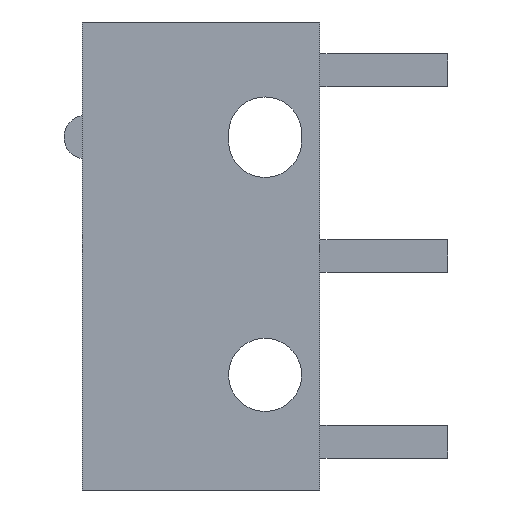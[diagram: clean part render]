
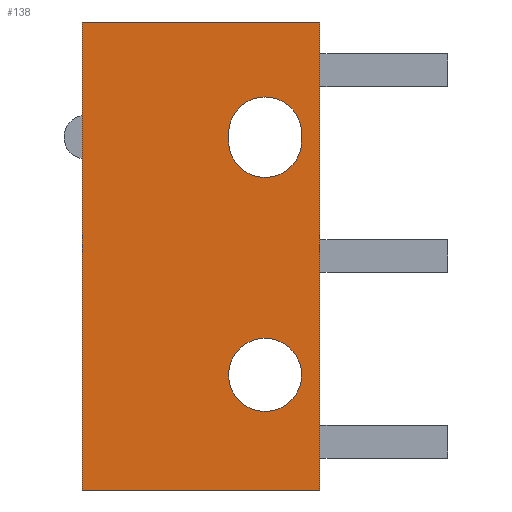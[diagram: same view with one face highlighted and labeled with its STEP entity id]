
A CAD part, left-side view. The second image highlights one B-rep face of the part: STEP entity #138.
In plain terms, the highlighted planar face has unit normal (-1, 0, 0).
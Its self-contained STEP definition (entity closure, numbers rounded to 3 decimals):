
#81 = ORIENTED_EDGE ( 'NONE', *, *, #85, .F. ) ;
#85 = EDGE_CURVE ( 'NONE', #87, #104, #474, .T. ) ;
#87 = VERTEX_POINT ( 'NONE', #505 ) ;
#88 = VERTEX_POINT ( 'NONE', #473 ) ;
#91 = VERTEX_POINT ( 'NONE', #497 ) ;
#94 = ORIENTED_EDGE ( 'NONE', *, *, #1201, .F. ) ;
#96 = VERTEX_POINT ( 'NONE', #494 ) ;
#103 = EDGE_LOOP ( 'NONE', ( #105, #81, #107, #113, #140 ) ) ;
#104 = VERTEX_POINT ( 'NONE', #549 ) ;
#105 = ORIENTED_EDGE ( 'NONE', *, *, #106, .F. ) ;
#106 = EDGE_CURVE ( 'NONE', #104, #96, #548, .T. ) ;
#107 = ORIENTED_EDGE ( 'NONE', *, *, #154, .F. ) ;
#108 = ORIENTED_EDGE ( 'NONE', *, *, #110, .T. ) ;
#109 = ORIENTED_EDGE ( 'NONE', *, *, #111, .F. ) ;
#110 = EDGE_CURVE ( 'NONE', #112, #1192, #551, .T. ) ;
#111 = EDGE_CURVE ( 'NONE', #112, #1203, #532, .T. ) ;
#112 = VERTEX_POINT ( 'NONE', #539 ) ;
#113 = ORIENTED_EDGE ( 'NONE', *, *, #142, .F. ) ;
#135 = EDGE_LOOP ( 'NONE', ( #94, #1209 ) ) ;
#136 = VERTEX_POINT ( 'NONE', #604 ) ;
#138 = ADVANCED_FACE ( 'NONE', ( #602, #555, #605 ), #558, .F. ) ;
#139 = EDGE_CURVE ( 'NONE', #88, #136, #598, .T. ) ;
#140 = ORIENTED_EDGE ( 'NONE', *, *, #161, .F. ) ;
#142 = EDGE_CURVE ( 'NONE', #91, #155, #597, .T. ) ;
#154 = EDGE_CURVE ( 'NONE', #155, #87, #628, .T. ) ;
#155 = VERTEX_POINT ( 'NONE', #626 ) ;
#161 = EDGE_CURVE ( 'NONE', #96, #91, #635, .T. ) ;
#473 = CARTESIAN_POINT ( 'NONE',  ( -2.9, 1.5, -4.25 ) ) ;
#474 = LINE ( 'NONE', #509, #504 ) ;
#494 = CARTESIAN_POINT ( 'NONE',  ( -2.9, 1.5, 4.35 ) ) ;
#497 = CARTESIAN_POINT ( 'NONE',  ( -2.9, 2.5, 3.35 ) ) ;
#503 = DIRECTION ( 'NONE',  ( 0., 0., 1. ) ) ;
#504 = VECTOR ( 'NONE', #503, 1000. ) ;
#505 = CARTESIAN_POINT ( 'NONE',  ( -2.9, 0.5, 3.15 ) ) ;
#509 = CARTESIAN_POINT ( 'NONE',  ( -2.9, 0.5, 3.35 ) ) ;
#529 = DIRECTION ( 'NONE',  ( 0., 0., 1. ) ) ;
#530 = VECTOR ( 'NONE', #529, 1000. ) ;
#531 = CARTESIAN_POINT ( 'NONE',  ( -2.9, 6.5, -6.4 ) ) ;
#532 = LINE ( 'NONE', #531, #530 ) ;
#535 = DIRECTION ( 'NONE',  ( 0., -1., 0. ) ) ;
#536 = VECTOR ( 'NONE', #535, 1000. ) ;
#537 = CARTESIAN_POINT ( 'NONE',  ( -2.9, 6.5, -6.4 ) ) ;
#539 = CARTESIAN_POINT ( 'NONE',  ( -2.9, 6.5, -6.4 ) ) ;
#540 = DIRECTION ( 'NONE',  ( 0., 0., -1. ) ) ;
#541 = DIRECTION ( 'NONE',  ( -1., 0., 0. ) ) ;
#542 = CARTESIAN_POINT ( 'NONE',  ( -2.9, 1.5, 3.35 ) ) ;
#543 = AXIS2_PLACEMENT_3D ( 'NONE', #542, #541, #540 ) ;
#548 = CIRCLE ( 'NONE', #543, 1. ) ;
#549 = CARTESIAN_POINT ( 'NONE',  ( -2.9, 0.5, 3.35 ) ) ;
#551 = LINE ( 'NONE', #537, #536 ) ;
#555 = FACE_OUTER_BOUND ( 'NONE', #1208, .T. ) ;
#558 = PLANE ( 'NONE',  #603 ) ;
#583 = DIRECTION ( 'NONE',  ( 0., 0., -1. ) ) ;
#584 = VECTOR ( 'NONE', #583, 1000. ) ;
#587 = DIRECTION ( 'NONE',  ( 0., 0., -1. ) ) ;
#588 = DIRECTION ( 'NONE',  ( -1., 0., 0. ) ) ;
#589 = CARTESIAN_POINT ( 'NONE',  ( -2.9, 1.5, -3.25 ) ) ;
#592 = DIRECTION ( 'NONE',  ( 0., 0., -1. ) ) ;
#593 = DIRECTION ( 'NONE',  ( 1., 0., 0. ) ) ;
#594 = CARTESIAN_POINT ( 'NONE',  ( -2.9, 6.5, -6.4 ) ) ;
#595 = AXIS2_PLACEMENT_3D ( 'NONE', #589, #588, #587 ) ;
#596 = CARTESIAN_POINT ( 'NONE',  ( -2.9, 2.5, 3.35 ) ) ;
#597 = LINE ( 'NONE', #596, #584 ) ;
#598 = CIRCLE ( 'NONE', #595, 1. ) ;
#602 = FACE_BOUND ( 'NONE', #135, .T. ) ;
#603 = AXIS2_PLACEMENT_3D ( 'NONE', #594, #593, #592 ) ;
#604 = CARTESIAN_POINT ( 'NONE',  ( -2.9, 1.5, -2.25 ) ) ;
#605 = FACE_BOUND ( 'NONE', #103, .T. ) ;
#613 = AXIS2_PLACEMENT_3D ( 'NONE', #667, #666, #665 ) ;
#620 = DIRECTION ( 'NONE',  ( 0., 0., -1. ) ) ;
#621 = DIRECTION ( 'NONE',  ( -1., 0., 0. ) ) ;
#622 = CARTESIAN_POINT ( 'NONE',  ( -2.9, 1.5, 3.15 ) ) ;
#623 = AXIS2_PLACEMENT_3D ( 'NONE', #622, #621, #620 ) ;
#626 = CARTESIAN_POINT ( 'NONE',  ( -2.9, 2.5, 3.15 ) ) ;
#628 = CIRCLE ( 'NONE', #623, 1. ) ;
#635 = CIRCLE ( 'NONE', #613, 1. ) ;
#665 = DIRECTION ( 'NONE',  ( 0., 0., -1. ) ) ;
#666 = DIRECTION ( 'NONE',  ( -1., 0., 0. ) ) ;
#667 = CARTESIAN_POINT ( 'NONE',  ( -2.9, 1.5, 3.35 ) ) ;
#1001 = LINE ( 'NONE', #1034, #1029 ) ;
#1010 = CARTESIAN_POINT ( 'NONE',  ( -2.9, 0., -6.4 ) ) ;
#1020 = CARTESIAN_POINT ( 'NONE',  ( -2.9, 6.5, 6.4 ) ) ;
#1023 = DIRECTION ( 'NONE',  ( 0., 0., -1. ) ) ;
#1024 = DIRECTION ( 'NONE',  ( -1., 0., 0. ) ) ;
#1029 = VECTOR ( 'NONE', #1033, 1000. ) ;
#1033 = DIRECTION ( 'NONE',  ( 0., -1., 0. ) ) ;
#1034 = CARTESIAN_POINT ( 'NONE',  ( -2.9, 6.5, 6.4 ) ) ;
#1035 = AXIS2_PLACEMENT_3D ( 'NONE', #1044, #1024, #1023 ) ;
#1038 = CIRCLE ( 'NONE', #1035, 1. ) ;
#1044 = CARTESIAN_POINT ( 'NONE',  ( -2.9, 1.5, -3.25 ) ) ;
#1059 = VECTOR ( 'NONE', #1068, 1000. ) ;
#1064 = CARTESIAN_POINT ( 'NONE',  ( -2.9, 0., 6.4 ) ) ;
#1068 = DIRECTION ( 'NONE',  ( 0., 0., 1. ) ) ;
#1069 = CARTESIAN_POINT ( 'NONE',  ( -2.9, 0., -6.4 ) ) ;
#1070 = LINE ( 'NONE', #1069, #1059 ) ;
#1192 = VERTEX_POINT ( 'NONE', #1010 ) ;
#1200 = EDGE_CURVE ( 'NONE', #1203, #1206, #1001, .T. ) ;
#1201 = EDGE_CURVE ( 'NONE', #136, #88, #1038, .T. ) ;
#1203 = VERTEX_POINT ( 'NONE', #1020 ) ;
#1204 = ORIENTED_EDGE ( 'NONE', *, *, #1207, .T. ) ;
#1205 = ORIENTED_EDGE ( 'NONE', *, *, #1200, .F. ) ;
#1206 = VERTEX_POINT ( 'NONE', #1064 ) ;
#1207 = EDGE_CURVE ( 'NONE', #1192, #1206, #1070, .T. ) ;
#1208 = EDGE_LOOP ( 'NONE', ( #1204, #1205, #109, #108 ) ) ;
#1209 = ORIENTED_EDGE ( 'NONE', *, *, #139, .F. ) ;
